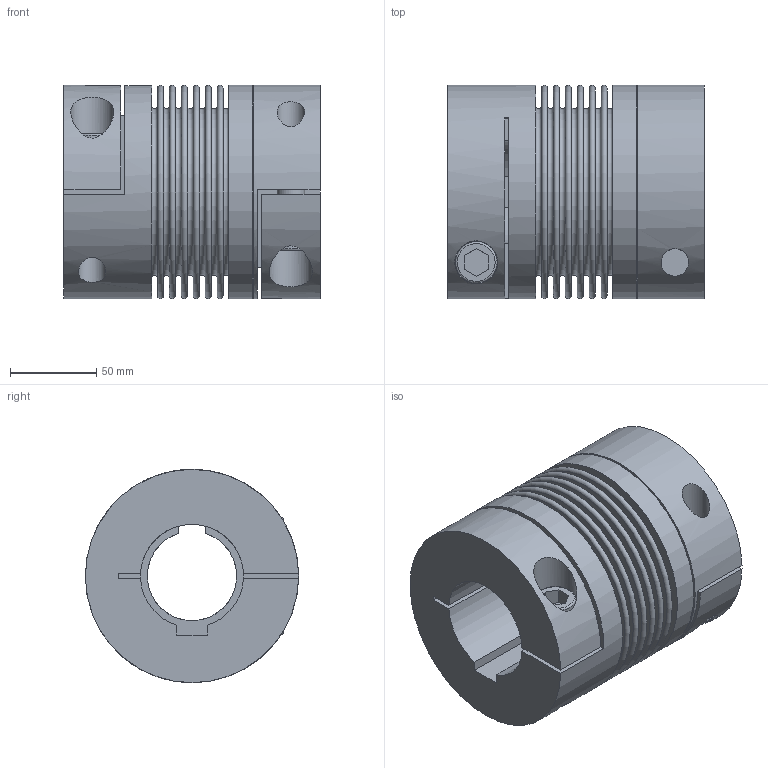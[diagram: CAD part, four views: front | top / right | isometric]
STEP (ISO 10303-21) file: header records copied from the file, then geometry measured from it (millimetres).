
FILE_DESCRIPTION(/* description */ ('STEP AP214'),/* implementation_level */ '2;1');
FILE_NAME(/* name */ 'C:\Diequa Files\DieQua Coupling\BCB\STP\BCB.500.149.#.#.stp',/* time_stamp */ '2018-11-27T09:06:10-06:00',/* author */ ('DiequaCAD'),/* organization */ (''),/* preprocessor_version */ 'ST-DEVELOPER v17.2',/* originating_system */ 'Autodesk Inventor 2019',/* authorisation */ ' ');
FILE_SCHEMA (('AUTOMOTIVE_DESIGN { 1 0 10303 214 3 1 1 }'));
Length unit declared in the file: millimetre
Products named in the file (3): BK5_500_149_60_PFN_52_PFN_98; 2018_11_09__18-15-05-730; 2018_11_09__18-15-05-730_1
Assembly tree (2 placements, depth 2):
  BK5_500_149_60_PFN_52_PFN_98
    2018_11_09__18-15-05-730
    2018_11_09__18-15-05-730_1
Bounding box: 149 x 124 x 124 mm (x, y, z)
Volume: 1086427.9 mm3; surface area: 233800.9 mm2
Topology: 2 solids, 2 shells, 125 faces, 325 edges, 229 vertices
Faces by surface type: plane 66, cone 24, cylinder 20, torus 15
Full cylindrical faces by diameter (mm): 16 x3, 24 x2, 25 x2, 94 x1, 105 x2, 124 x3
Entity records: 4274 total; most frequent: CARTESIAN_POINT 920, DIRECTION 725, ORIENTED_EDGE 650, EDGE_CURVE 325, AXIS2_PLACEMENT_3D 302, VERTEX_POINT 229, CIRCLE 172, EDGE_LOOP 156
